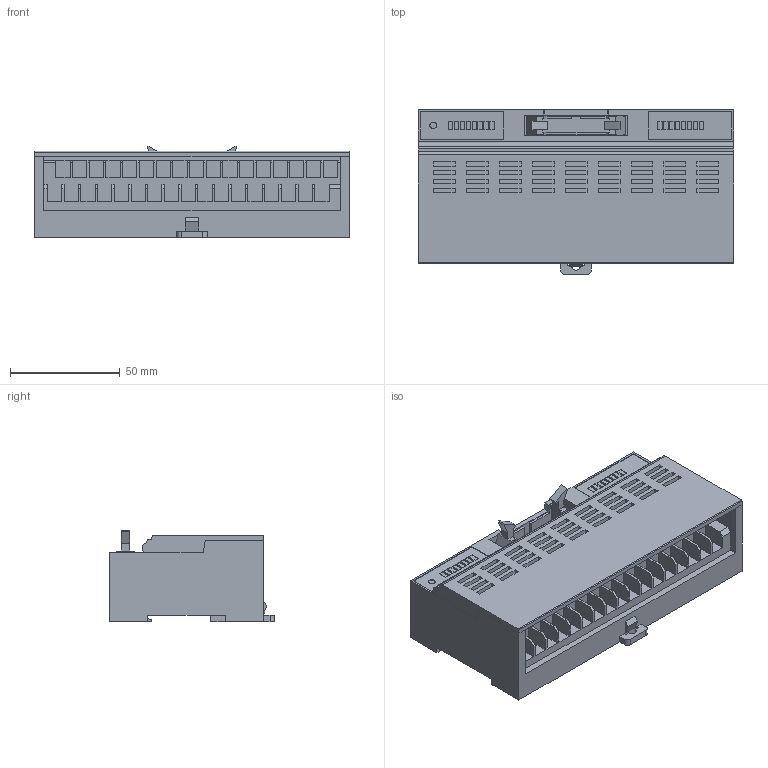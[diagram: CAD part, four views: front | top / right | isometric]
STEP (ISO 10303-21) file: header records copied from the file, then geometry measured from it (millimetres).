
FILE_DESCRIPTION(/* description */ (''),/* implementation_level */ '2;1');
FILE_NAME(/* name */ 'R16C.stp',/* time_stamp */ '2015-05-26T08:51:56+09:00',/* author */ (''),/* organization */ (''),/* preprocessor_version */ 'ST-DEVELOPER v11',/* originating_system */ 'SIEMENS UGS NX 6.0',/* authorisation */ '');
FILE_SCHEMA (('CONFIG_CONTROL_DESIGN'));
Length unit declared in the file: millimetre
Products named in the file (1): ksleB7F4xigx
Bounding box: 143.6 x 75 x 41.7 mm (x, y, z)
Volume: 299519.7 mm3; surface area: 57243.2 mm2
Topology: 1 solids, 1 shells, 636 faces, 1676 edges, 1102 vertices
Faces by surface type: plane 619, cylinder 17
Full cylindrical faces by diameter (mm): 3 x1
Entity records: 19324 total; most frequent: CARTESIAN_POINT 3426, ORIENTED_EDGE 3360, DIRECTION 2988, EDGE_CURVE 1680, LINE 1646, VECTOR 1646, VERTEX_POINT 1109, EDGE_LOOP 701
